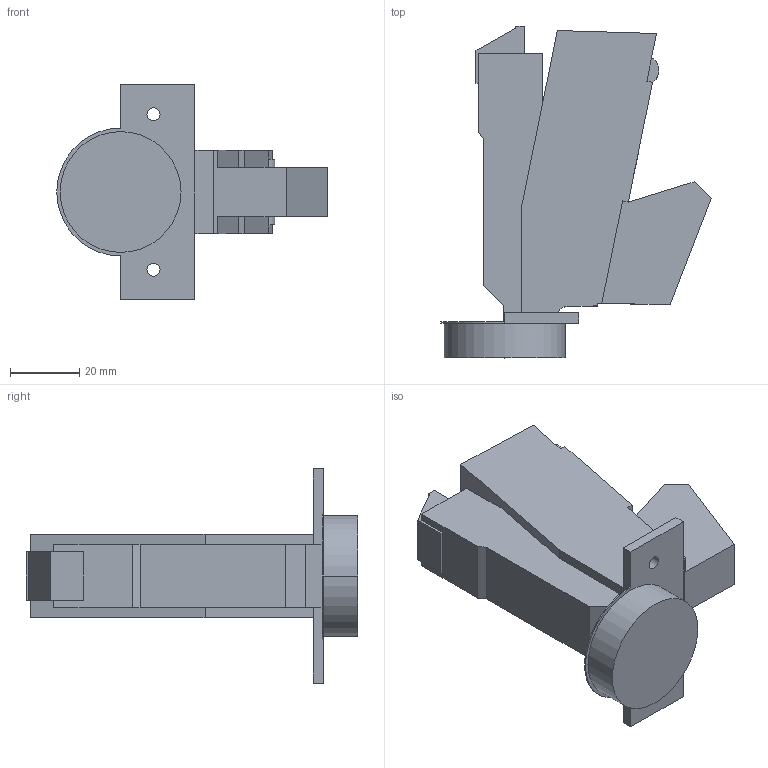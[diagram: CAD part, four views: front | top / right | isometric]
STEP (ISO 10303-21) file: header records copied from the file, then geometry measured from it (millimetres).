
FILE_DESCRIPTION (( 'STEP AP214' ), '1' );
FILE_NAME ('Scharnier T Click-on 160° B_BB, K95 - Neu -.step', '2019-09-17T09:18:10', ( '' ), ( '' ), 'SwSTEP 2.0', 'SolidWorks 2019', '' );
FILE_SCHEMA (( 'AUTOMOTIVE_DESIGN' ));
Length unit declared in the file: millimetre
Products named in the file (1): Scharnier T Click-on 160° B_BB, K95 - Neu -
Bounding box: 78.32 x 96.09 x 62 mm (x, y, z)
Volume: 99401.3 mm3; surface area: 20106.9 mm2
Topology: 1 solids, 2 shells, 63 faces, 170 edges, 112 vertices
Faces by surface type: plane 53, cylinder 10
Entity records: 1991 total; most frequent: CARTESIAN_POINT 349, ORIENTED_EDGE 340, DIRECTION 316, EDGE_CURVE 170, LINE 150, VECTOR 150, VERTEX_POINT 112, AXIS2_PLACEMENT_3D 83
